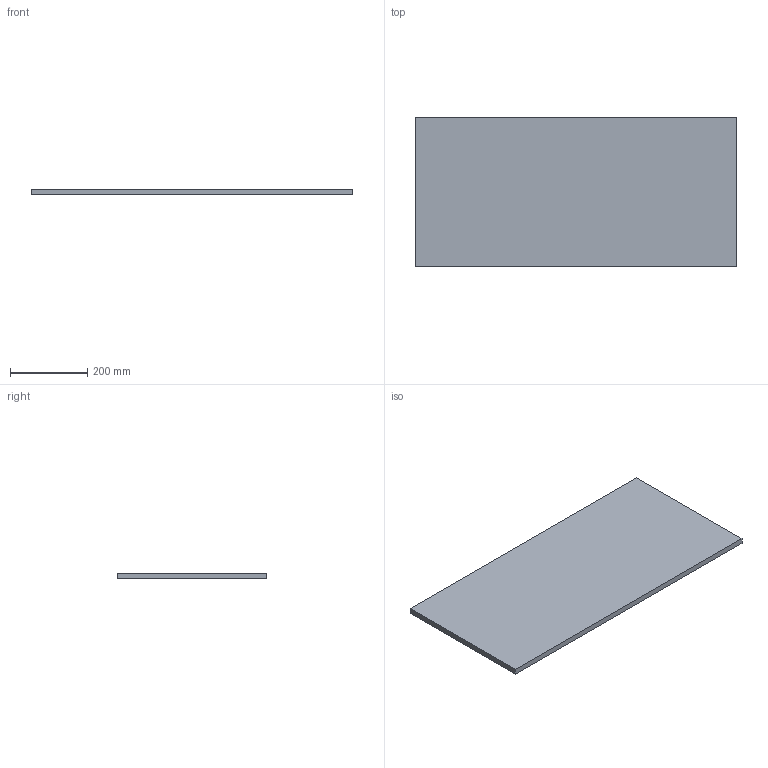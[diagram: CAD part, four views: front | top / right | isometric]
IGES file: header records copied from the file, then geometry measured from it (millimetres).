
Global section: file name: frente.igs; native system: NX V2312; preprocessor: SIEMENS PLM Software NX2312.5001; date: 20240809.190945; units: millimetre
Bounding box: 830 x 386.19 x 15 mm (x, y, z)
Surface area: 677567.6 mm2 (no closed solid volume)
Topology: 0 solids, 0 shells, 6 faces, 24 edges, 24 vertices
Faces by surface type: bspline 6
